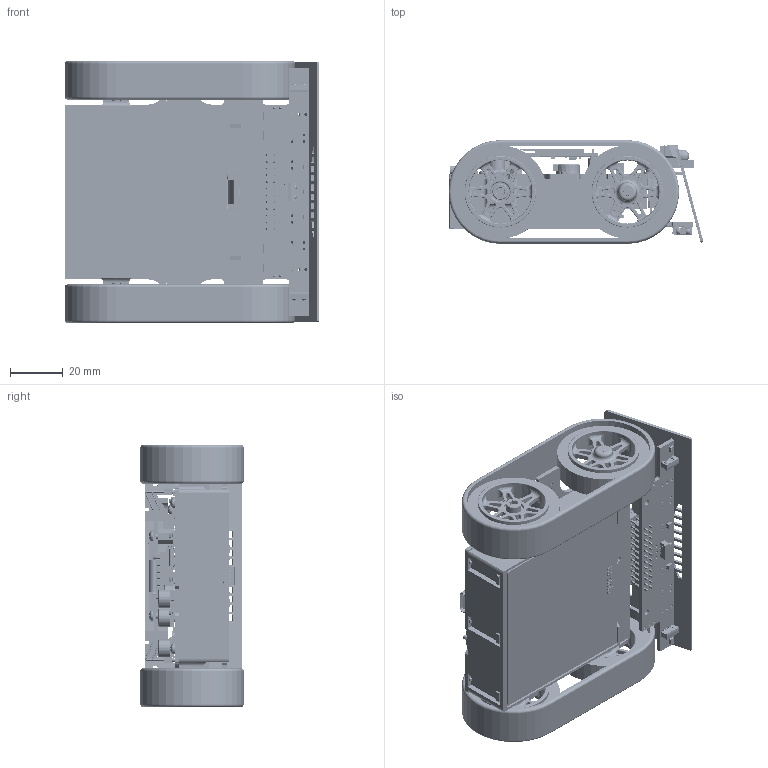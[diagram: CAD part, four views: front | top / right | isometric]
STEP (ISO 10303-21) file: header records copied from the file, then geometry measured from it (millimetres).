
FILE_DESCRIPTION (( 'STEP AP214' ), '1' );
FILE_NAME ('zumo-2040-robot.step', '2023-11-21T21:38:38', ( '' ), ( '' ), 'SwSTEP 2.0', 'SolidWorks 2023', '' );
FILE_SCHEMA (( 'AUTOMOTIVE_DESIGN' ));
Length unit declared in the file: millimetre
Products named in the file (14): shroud_default; ir_led_right; zum03a; MF-Standoff_for_pcb_models_.25inLength_2-56Thread; screw_0.25in; blade_default; battery-cover; nut; OLED_black_with_header; irs08b; zumo-2040-robot; chassis; ir_led_left; screw_0.1875in
Assembly tree (25 placements, depth 2):
  zumo-2040-robot
    chassis
    battery-cover
    shroud_default
    blade_default
    ir_led_left
    ir_led_right
    screw_0.25in  x2
    nut  x6
    screw_0.1875in  x6
    OLED_black_with_header
    MF-Standoff_for_pcb_models_.25inLength_2-56Thread  x2
    zum03a
    irs08b
Bounding box: 96.18 x 39 x 99 mm (x, y, z)
Volume: 87911.2 mm3; surface area: 103424.2 mm2
Topology: 49 solids, 67 shells, 10657 faces, 28501 edges, 18262 vertices
Faces by surface type: plane 6259, cylinder 2522, bspline 1129, torus 570, cone 133, sphere 44
Entity records: 460855 total; most frequent: CARTESIAN_POINT 100164, ORIENTED_EDGE 55590, DIRECTION 49414, EDGE_CURVE 27795, VECTOR 19048, LINE 19048, VERTEX_POINT 17866, AXIS2_PLACEMENT_3D 15183
